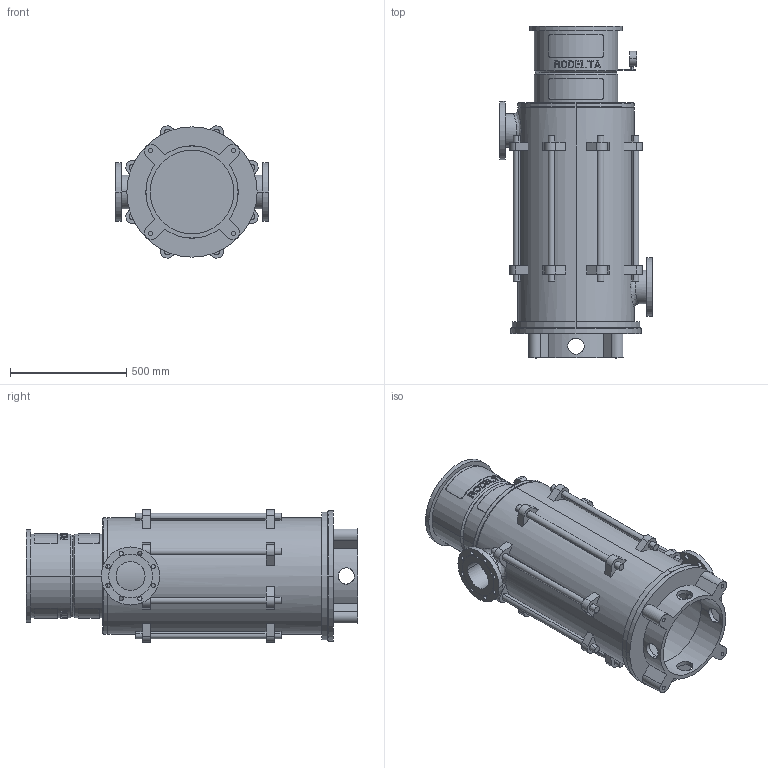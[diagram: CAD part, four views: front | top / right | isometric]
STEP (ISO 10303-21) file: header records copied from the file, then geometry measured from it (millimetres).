
FILE_DESCRIPTION((''),'2;1');
FILE_NAME('LS5_5TR_0GR_TOT_30KW','2023-08-08T',('Lyritlocal'),(''),'PRO/ENGINEER BY PARAMETRIC TECHNOLOGY CORPORATION, 2016360','PRO/ENGINEER BY PARAMETRIC TECHNOLOGY CORPORATION, 2016360','');
FILE_SCHEMA(('CONFIG_CONTROL_DESIGN'));
Length unit declared in the file: millimetre
Products named in the file (1): LS5_5TR_0GR_TOT_30KW
Bounding box: 660 x 1426 x 568.08 mm (x, y, z)
Volume: 40130492.5 mm3; surface area: 5860042.9 mm2
Topology: 3 solids, 7 shells, 672 faces, 1747 edges, 1158 vertices
Faces by surface type: plane 414, cylinder 242, cone 12, bspline 4
Entity records: 22026 total; most frequent: CARTESIAN_POINT 5582, ORIENTED_EDGE 3478, DIRECTION 3269, EDGE_CURVE 1747, AXIS2_PLACEMENT_3D 1241, VERTEX_POINT 1158, EDGE_LOOP 809, VECTOR 787
